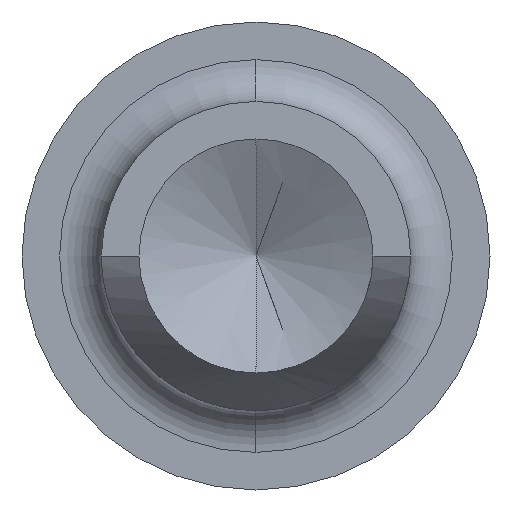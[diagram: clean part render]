
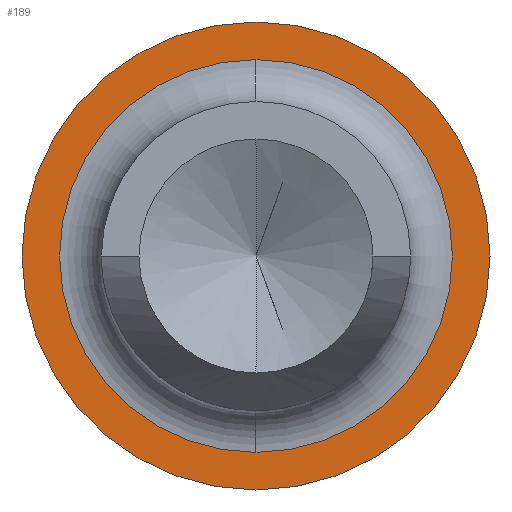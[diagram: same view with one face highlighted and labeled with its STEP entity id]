
A CAD part, left-side view. The second image highlights one B-rep face of the part: STEP entity #189.
In plain terms, the highlighted planar face has unit normal (-1, 0, 0).
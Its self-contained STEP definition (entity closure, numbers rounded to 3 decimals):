
#40 = CIRCLE ( 'NONE', #41, 2.8 ) ;
#41 = AXIS2_PLACEMENT_3D ( 'NONE', #874, #862, #875 ) ;
#186 = EDGE_CURVE ( 'NONE', #707, #704, #1668, .T. ) ;
#189 = ADVANCED_FACE ( 'NONE', ( #1212, #1217 ), #1188, .F. ) ;
#193 = EDGE_CURVE ( 'NONE', #645, #643, #1666, .T. ) ;
#233 = EDGE_CURVE ( 'NONE', #704, #707, #40, .T. ) ;
#549 = EDGE_LOOP ( 'NONE', ( #2012, #2004 ) ) ;
#564 = EDGE_LOOP ( 'NONE', ( #1954, #1962 ) ) ;
#643 = VERTEX_POINT ( 'NONE', #1026 ) ;
#645 = VERTEX_POINT ( 'NONE', #1027 ) ;
#704 = VERTEX_POINT ( 'NONE', #876 ) ;
#707 = VERTEX_POINT ( 'NONE', #793 ) ;
#793 = CARTESIAN_POINT ( 'NONE',  ( 7.8, 0., -2.8 ) ) ;
#819 = EDGE_CURVE ( 'NONE', #643, #645, #1367, .T. ) ;
#862 = DIRECTION ( 'NONE',  ( -1., 0., 0. ) ) ;
#874 = CARTESIAN_POINT ( 'NONE',  ( 7.8, 0., 0. ) ) ;
#875 = DIRECTION ( 'NONE',  ( 0., 0., 1. ) ) ;
#876 = CARTESIAN_POINT ( 'NONE',  ( 7.8, 0., 2.8 ) ) ;
#1026 = CARTESIAN_POINT ( 'NONE',  ( 7.8, 0., 2.35 ) ) ;
#1027 = CARTESIAN_POINT ( 'NONE',  ( 7.8, 0., -2.35 ) ) ;
#1188 = PLANE ( 'NONE',  #1655 ) ;
#1195 = CARTESIAN_POINT ( 'NONE',  ( 7.8, 0., 0. ) ) ;
#1200 = DIRECTION ( 'NONE',  ( -1., 0., 0. ) ) ;
#1205 = DIRECTION ( 'NONE',  ( 0., 0., 1. ) ) ;
#1212 = FACE_BOUND ( 'NONE', #549, .T. ) ;
#1217 = FACE_OUTER_BOUND ( 'NONE', #564, .T. ) ;
#1219 = CARTESIAN_POINT ( 'NONE',  ( 7.8, 1.85, 0. ) ) ;
#1220 = DIRECTION ( 'NONE',  ( 1., 0., 0. ) ) ;
#1221 = DIRECTION ( 'NONE',  ( 0., 0., -1. ) ) ;
#1258 = CARTESIAN_POINT ( 'NONE',  ( 7.8, 0., 0. ) ) ;
#1274 = DIRECTION ( 'NONE',  ( 1., 0., 0. ) ) ;
#1280 = DIRECTION ( 'NONE',  ( 0., 0., -1. ) ) ;
#1367 = CIRCLE ( 'NONE', #1388, 2.35 ) ;
#1388 = AXIS2_PLACEMENT_3D ( 'NONE', #1457, #1428, #1433 ) ;
#1428 = DIRECTION ( 'NONE',  ( 1., 0., 0. ) ) ;
#1433 = DIRECTION ( 'NONE',  ( 0., 0., -1. ) ) ;
#1457 = CARTESIAN_POINT ( 'NONE',  ( 7.8, 0., 0. ) ) ;
#1650 = AXIS2_PLACEMENT_3D ( 'NONE', #1258, #1274, #1280 ) ;
#1655 = AXIS2_PLACEMENT_3D ( 'NONE', #1219, #1220, #1221 ) ;
#1661 = AXIS2_PLACEMENT_3D ( 'NONE', #1195, #1200, #1205 ) ;
#1666 = CIRCLE ( 'NONE', #1650, 2.35 ) ;
#1668 = CIRCLE ( 'NONE', #1661, 2.8 ) ;
#1954 = ORIENTED_EDGE ( 'NONE', *, *, #233, .T. ) ;
#1962 = ORIENTED_EDGE ( 'NONE', *, *, #186, .T. ) ;
#2004 = ORIENTED_EDGE ( 'NONE', *, *, #819, .T. ) ;
#2012 = ORIENTED_EDGE ( 'NONE', *, *, #193, .T. ) ;
